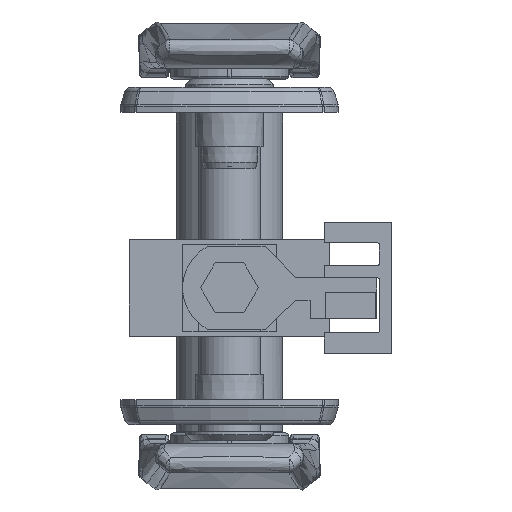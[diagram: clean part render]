
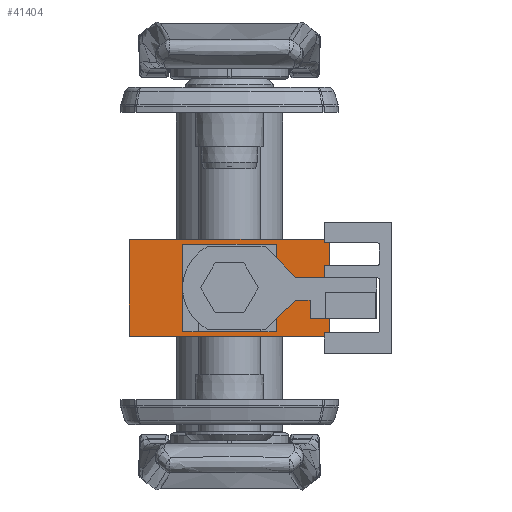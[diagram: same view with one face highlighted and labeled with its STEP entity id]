
A CAD part, front view. The second image highlights one B-rep face of the part: STEP entity #41404.
In plain terms, the highlighted planar face has unit normal (0, -1, 0).
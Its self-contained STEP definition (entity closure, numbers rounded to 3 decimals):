
#15 = DIRECTION ( 'NONE',  ( 0., 0., 1. ) ) ;
#2962 = ORIENTED_EDGE ( 'NONE', *, *, #46195, .F. ) ;
#3392 = LINE ( 'NONE', #51133, #48365 ) ;
#3634 = CARTESIAN_POINT ( 'NONE',  ( -16., -199.25, -7.75 ) ) ;
#5257 = ORIENTED_EDGE ( 'NONE', *, *, #8707, .T. ) ;
#5769 = VERTEX_POINT ( 'NONE', #3634 ) ;
#6002 = VECTOR ( 'NONE', #32705, 1000. ) ;
#6208 = EDGE_LOOP ( 'NONE', ( #2962, #9874, #44251, #52424 ) ) ;
#6451 = VECTOR ( 'NONE', #33848, 1000. ) ;
#6888 = ORIENTED_EDGE ( 'NONE', *, *, #13670, .F. ) ;
#7043 = VERTEX_POINT ( 'NONE', #12087 ) ;
#8707 = EDGE_CURVE ( 'NONE', #42635, #5769, #26893, .T. ) ;
#9874 = ORIENTED_EDGE ( 'NONE', *, *, #20250, .F. ) ;
#11008 = VERTEX_POINT ( 'NONE', #35241 ) ;
#11420 = CARTESIAN_POINT ( 'NONE',  ( 7., -199.25, 6.25 ) ) ;
#11546 = CARTESIAN_POINT ( 'NONE',  ( -7., -199.25, 6.25 ) ) ;
#11786 = VECTOR ( 'NONE', #27801, 1000. ) ;
#11958 = LINE ( 'NONE', #11420, #6002 ) ;
#12087 = CARTESIAN_POINT ( 'NONE',  ( 16., -199.25, 7.75 ) ) ;
#12532 = FACE_BOUND ( 'NONE', #6208, .T. ) ;
#13670 = EDGE_CURVE ( 'NONE', #7043, #46827, #23047, .T. ) ;
#14590 = DIRECTION ( 'NONE',  ( 1., 0., 0. ) ) ;
#15469 = VECTOR ( 'NONE', #39296, 1000. ) ;
#15993 = DIRECTION ( 'NONE',  ( 0., 1., 0. ) ) ;
#16359 = CARTESIAN_POINT ( 'NONE',  ( -7., -199.25, -6.25 ) ) ;
#17322 = DIRECTION ( 'NONE',  ( -1., 0., 0. ) ) ;
#17617 = CARTESIAN_POINT ( 'NONE',  ( -16., -199.25, 7.75 ) ) ;
#17771 = DIRECTION ( 'NONE',  ( 1., 0., 0. ) ) ;
#18444 = CARTESIAN_POINT ( 'NONE',  ( 7., -199.25, 6.25 ) ) ;
#19122 = AXIS2_PLACEMENT_3D ( 'NONE', #20808, #15993, #15 ) ;
#20250 = EDGE_CURVE ( 'NONE', #34339, #28642, #46381, .T. ) ;
#20260 = LINE ( 'NONE', #31937, #29523 ) ;
#20808 = CARTESIAN_POINT ( 'NONE',  ( -16., -199.25, 7.75 ) ) ;
#20993 = LINE ( 'NONE', #41512, #32207 ) ;
#23047 = LINE ( 'NONE', #23306, #15469 ) ;
#23306 = CARTESIAN_POINT ( 'NONE',  ( 16., -199.25, 7.75 ) ) ;
#24285 = EDGE_CURVE ( 'NONE', #40848, #11008, #3392, .T. ) ;
#24516 = PLANE ( 'NONE',  #19122 ) ;
#26893 = LINE ( 'NONE', #17617, #6451 ) ;
#27692 = ORIENTED_EDGE ( 'NONE', *, *, #50485, .F. ) ;
#27801 = DIRECTION ( 'NONE',  ( 0., 0., -1. ) ) ;
#28642 = VERTEX_POINT ( 'NONE', #11546 ) ;
#29460 = EDGE_LOOP ( 'NONE', ( #47620, #6888, #27692, #5257 ) ) ;
#29523 = VECTOR ( 'NONE', #48276, 1000. ) ;
#30316 = VECTOR ( 'NONE', #17322, 1000. ) ;
#30363 = CARTESIAN_POINT ( 'NONE',  ( 16., -199.25, -7.75 ) ) ;
#31937 = CARTESIAN_POINT ( 'NONE',  ( -16., -199.25, -7.75 ) ) ;
#32207 = VECTOR ( 'NONE', #17771, 1000. ) ;
#32705 = DIRECTION ( 'NONE',  ( 0., 0., 1. ) ) ;
#33192 = CARTESIAN_POINT ( 'NONE',  ( -16., -199.25, 7.75 ) ) ;
#33368 = EDGE_CURVE ( 'NONE', #11008, #34339, #11958, .T. ) ;
#33848 = DIRECTION ( 'NONE',  ( 0., 0., -1. ) ) ;
#34339 = VERTEX_POINT ( 'NONE', #18444 ) ;
#35241 = CARTESIAN_POINT ( 'NONE',  ( 7., -199.25, -6.25 ) ) ;
#36222 = FACE_OUTER_BOUND ( 'NONE', #29460, .T. ) ;
#39296 = DIRECTION ( 'NONE',  ( 0., 0., -1. ) ) ;
#40848 = VERTEX_POINT ( 'NONE', #41873 ) ;
#41404 = ADVANCED_FACE ( 'NONE', ( #12532, #36222 ), #24516, .F. ) ;
#41512 = CARTESIAN_POINT ( 'NONE',  ( -16., -199.25, 7.75 ) ) ;
#41862 = CARTESIAN_POINT ( 'NONE',  ( 7., -199.25, 6.25 ) ) ;
#41873 = CARTESIAN_POINT ( 'NONE',  ( -7., -199.25, -6.25 ) ) ;
#42635 = VERTEX_POINT ( 'NONE', #33192 ) ;
#44251 = ORIENTED_EDGE ( 'NONE', *, *, #33368, .F. ) ;
#44882 = EDGE_CURVE ( 'NONE', #5769, #46827, #20260, .T. ) ;
#46195 = EDGE_CURVE ( 'NONE', #28642, #40848, #51852, .T. ) ;
#46381 = LINE ( 'NONE', #41862, #30316 ) ;
#46827 = VERTEX_POINT ( 'NONE', #30363 ) ;
#47620 = ORIENTED_EDGE ( 'NONE', *, *, #44882, .T. ) ;
#48276 = DIRECTION ( 'NONE',  ( 1., 0., 0. ) ) ;
#48365 = VECTOR ( 'NONE', #14590, 1000. ) ;
#50485 = EDGE_CURVE ( 'NONE', #42635, #7043, #20993, .T. ) ;
#51133 = CARTESIAN_POINT ( 'NONE',  ( -7., -199.25, -6.25 ) ) ;
#51852 = LINE ( 'NONE', #16359, #11786 ) ;
#52424 = ORIENTED_EDGE ( 'NONE', *, *, #24285, .F. ) ;
